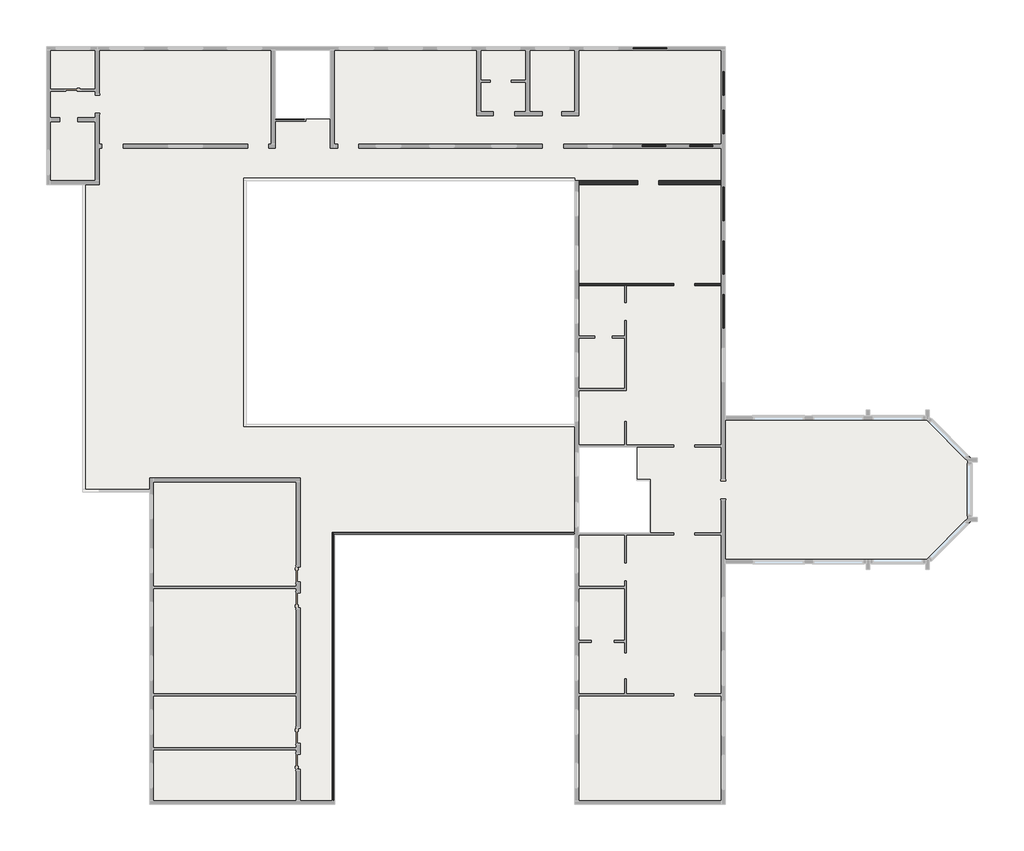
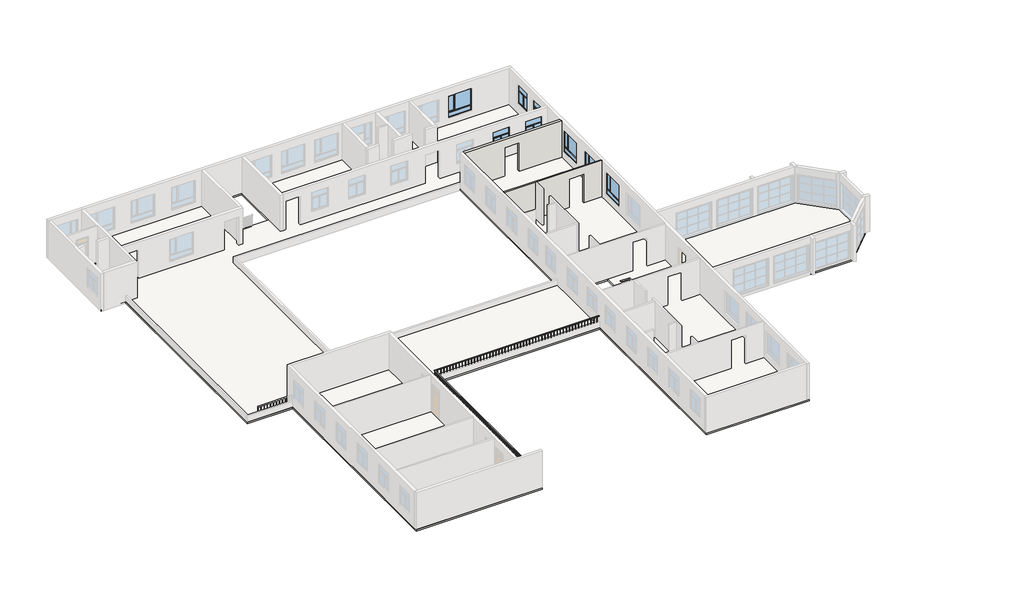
# One storey, part 3 of 4: 8 windows, 2 walls, 1 railing, 1 slab.
"""IFC4 building model written with IfcOpenShell, lengths in millimetres."""

from ifc_helpers import new_model, si_unit, frame, origin, place, context, project, spatial, polyline, outline, extrude, faceted_brep, transform, mapped, element, save
from components import c1_07d47191, c2_05897f81

model = new_model("IFC4")

# Units and contexts
model_context = context("Model", 3, world=origin())
ifc_project = project(units=[si_unit("LENGTHUNIT", "METRE", prefix="MILLI")], contexts=[model_context])

# Site, building, storey
site = spatial("IfcSite", under=ifc_project)
building = spatial("IfcBuilding", under=site)
storey = spatial("IfcBuildingStorey", under=building, Name="二层", Elevation=3600.0)

# Railing
placement = place(None, origin())
element("IfcRailing", 1, ObjectType="900mm", at=placement, inside=storey, context=model_context, shape_type="SolidModel", body=[
    faceted_brep([(-17810.2831392, -27593.7838385, 4700.0), (-17810.2831392, -27593.7838385, 4650.0), (-17760.2831392, -27593.7838385, 4650.0), (-17760.2831392, -27593.7838385, 4700.0), (-17810.2831392, -11173.7838385, 4700.0), (-17810.2831392, -11173.7838385, 4650.0), (-17760.2831392, -11223.7838385, 4650.0), (-17760.2831392, -11223.7838385, 4700.0), (-2990.2831392, -11173.7838385, 4700.0), (-2990.2831392, -11223.7838385, 4700.0), (-2990.2831392, -11223.7838385, 4650.0), (-2990.2831392, -11173.7838385, 4650.0)], [[[0, 1, 2, 3]], [[1, 0, 4, 5]], [[2, 1, 5, 6]], [[3, 2, 6, 7]], [[0, 3, 7, 4]], [[8, 9, 10, 11]], [[5, 4, 8, 11]], [[6, 5, 11, 10]], [[7, 6, 10, 9]], [[4, 7, 9, 8]]]),
    extrude(outline(polyline([(-3220.2831392, -11208.7838385), (-3220.2831392, -11188.7838385), (-3200.2831392, -11188.7838385), (-3200.2831392, -11208.7838385), (-3220.2831392, -11208.7838385)])), frame((0.0, 0.0, 4150.0), z_axis=(0.0, 0.0, 1.0), x_axis=(1.0, 0.0, 0.0)), (0.0, 0.0, 1.0), 500.0),
    extrude(outline(polyline([(-3495.2831392, -11208.7838385), (-3495.2831392, -11188.7838385), (-3475.2831392, -11188.7838385), (-3475.2831392, -11208.7838385), (-3495.2831392, -11208.7838385)])), frame((0.0, 0.0, 4150.0), z_axis=(0.0, 0.0, 1.0), x_axis=(1.0, 0.0, 0.0)), (0.0, 0.0, 1.0), 500.0),
    extrude(outline(polyline([(-3770.2831392, -11208.7838385), (-3770.2831392, -11188.7838385), (-3750.2831392, -11188.7838385), (-3750.2831392, -11208.7838385), (-3770.2831392, -11208.7838385)])), frame((0.0, 0.0, 4150.0), z_axis=(0.0, 0.0, 1.0), x_axis=(1.0, 0.0, 0.0)), (0.0, 0.0, 1.0), 500.0),
    extrude(outline(polyline([(-4045.2831392, -11208.7838385), (-4045.2831392, -11188.7838385), (-4025.2831392, -11188.7838385), (-4025.2831392, -11208.7838385), (-4045.2831392, -11208.7838385)])), frame((0.0, 0.0, 4150.0), z_axis=(0.0, 0.0, 1.0), x_axis=(1.0, 0.0, 0.0)), (0.0, 0.0, 1.0), 500.0),
    extrude(outline(polyline([(-4320.2831392, -11208.7838385), (-4320.2831392, -11188.7838385), (-4300.2831392, -11188.7838385), (-4300.2831392, -11208.7838385), (-4320.2831392, -11208.7838385)])), frame((0.0, 0.0, 4150.0), z_axis=(0.0, 0.0, 1.0), x_axis=(1.0, 0.0, 0.0)), (0.0, 0.0, 1.0), 500.0),
    extrude(outline(polyline([(-4595.2831392, -11208.7838385), (-4595.2831392, -11188.7838385), (-4575.2831392, -11188.7838385), (-4575.2831392, -11208.7838385), (-4595.2831392, -11208.7838385)])), frame((0.0, 0.0, 4150.0), z_axis=(0.0, 0.0, 1.0), x_axis=(1.0, 0.0, 0.0)), (0.0, 0.0, 1.0), 500.0),
    extrude(outline(polyline([(-4870.2831392, -11208.7838385), (-4870.2831392, -11188.7838385), (-4850.2831392, -11188.7838385), (-4850.2831392, -11208.7838385), (-4870.2831392, -11208.7838385)])), frame((0.0, 0.0, 4150.0), z_axis=(0.0, 0.0, 1.0), x_axis=(1.0, 0.0, 0.0)), (0.0, 0.0, 1.0), 500.0),
    extrude(outline(polyline([(-5145.2831392, -11208.7838385), (-5145.2831392, -11188.7838385), (-5125.2831392, -11188.7838385), (-5125.2831392, -11208.7838385), (-5145.2831392, -11208.7838385)])), frame((0.0, 0.0, 4150.0), z_axis=(0.0, 0.0, 1.0), x_axis=(1.0, 0.0, 0.0)), (0.0, 0.0, 1.0), 500.0),
    extrude(outline(polyline([(-5420.2831392, -11208.7838385), (-5420.2831392, -11188.7838385), (-5400.2831392, -11188.7838385), (-5400.2831392, -11208.7838385), (-5420.2831392, -11208.7838385)])), frame((0.0, 0.0, 4150.0), z_axis=(0.0, 0.0, 1.0), x_axis=(1.0, 0.0, 0.0)), (0.0, 0.0, 1.0), 500.0),
    extrude(outline(polyline([(-5695.2831392, -11208.7838385), (-5695.2831392, -11188.7838385), (-5675.2831392, -11188.7838385), (-5675.2831392, -11208.7838385), (-5695.2831392, -11208.7838385)])), frame((0.0, 0.0, 4150.0), z_axis=(0.0, 0.0, 1.0), x_axis=(1.0, 0.0, 0.0)), (0.0, 0.0, 1.0), 500.0),
    extrude(outline(polyline([(-5970.2831392, -11208.7838385), (-5970.2831392, -11188.7838385), (-5950.2831392, -11188.7838385), (-5950.2831392, -11208.7838385), (-5970.2831392, -11208.7838385)])), frame((0.0, 0.0, 4150.0), z_axis=(0.0, 0.0, 1.0), x_axis=(1.0, 0.0, 0.0)), (0.0, 0.0, 1.0), 500.0),
    extrude(outline(polyline([(-6245.2831392, -11208.7838385), (-6245.2831392, -11188.7838385), (-6225.2831392, -11188.7838385), (-6225.2831392, -11208.7838385), (-6245.2831392, -11208.7838385)])), frame((0.0, 0.0, 4150.0), z_axis=(0.0, 0.0, 1.0), x_axis=(1.0, 0.0, 0.0)), (0.0, 0.0, 1.0), 500.0),
    extrude(outline(polyline([(-6520.2831392, -11208.7838385), (-6520.2831392, -11188.7838385), (-6500.2831392, -11188.7838385), (-6500.2831392, -11208.7838385), (-6520.2831392, -11208.7838385)])), frame((0.0, 0.0, 4150.0), z_axis=(0.0, 0.0, 1.0), x_axis=(1.0, 0.0, 0.0)), (0.0, 0.0, 1.0), 500.0),
    extrude(outline(polyline([(-6795.2831392, -11208.7838385), (-6795.2831392, -11188.7838385), (-6775.2831392, -11188.7838385), (-6775.2831392, -11208.7838385), (-6795.2831392, -11208.7838385)])), frame((0.0, 0.0, 4150.0), z_axis=(0.0, 0.0, 1.0), x_axis=(1.0, 0.0, 0.0)), (0.0, 0.0, 1.0), 500.0),
    extrude(outline(polyline([(-7070.2831392, -11208.7838385), (-7070.2831392, -11188.7838385), (-7050.2831392, -11188.7838385), (-7050.2831392, -11208.7838385), (-7070.2831392, -11208.7838385)])), frame((0.0, 0.0, 4150.0), z_axis=(0.0, 0.0, 1.0), x_axis=(1.0, 0.0, 0.0)), (0.0, 0.0, 1.0), 500.0),
    extrude(outline(polyline([(-7345.2831392, -11208.7838385), (-7345.2831392, -11188.7838385), (-7325.2831392, -11188.7838385), (-7325.2831392, -11208.7838385), (-7345.2831392, -11208.7838385)])), frame((0.0, 0.0, 4150.0), z_axis=(0.0, 0.0, 1.0), x_axis=(1.0, 0.0, 0.0)), (0.0, 0.0, 1.0), 500.0),
    extrude(outline(polyline([(-7620.2831392, -11208.7838385), (-7620.2831392, -11188.7838385), (-7600.2831392, -11188.7838385), (-7600.2831392, -11208.7838385), (-7620.2831392, -11208.7838385)])), frame((0.0, 0.0, 4150.0), z_axis=(0.0, 0.0, 1.0), x_axis=(1.0, 0.0, 0.0)), (0.0, 0.0, 1.0), 500.0),
    extrude(outline(polyline([(-7895.2831392, -11208.7838385), (-7895.2831392, -11188.7838385), (-7875.2831392, -11188.7838385), (-7875.2831392, -11208.7838385), (-7895.2831392, -11208.7838385)])), frame((0.0, 0.0, 4150.0), z_axis=(0.0, 0.0, 1.0), x_axis=(1.0, 0.0, 0.0)), (0.0, 0.0, 1.0), 500.0),
    extrude(outline(polyline([(-8170.2831392, -11208.7838385), (-8170.2831392, -11188.7838385), (-8150.2831392, -11188.7838385), (-8150.2831392, -11208.7838385), (-8170.2831392, -11208.7838385)])), frame((0.0, 0.0, 4150.0), z_axis=(0.0, 0.0, 1.0), x_axis=(1.0, 0.0, 0.0)), (0.0, 0.0, 1.0), 500.0),
    extrude(outline(polyline([(-8445.2831392, -11208.7838385), (-8445.2831392, -11188.7838385), (-8425.2831392, -11188.7838385), (-8425.2831392, -11208.7838385), (-8445.2831392, -11208.7838385)])), frame((0.0, 0.0, 4150.0), z_axis=(0.0, 0.0, 1.0), x_axis=(1.0, 0.0, 0.0)), (0.0, 0.0, 1.0), 500.0),
    extrude(outline(polyline([(-8720.2831392, -11208.7838385), (-8720.2831392, -11188.7838385), (-8700.2831392, -11188.7838385), (-8700.2831392, -11208.7838385), (-8720.2831392, -11208.7838385)])), frame((0.0, 0.0, 4150.0), z_axis=(0.0, 0.0, 1.0), x_axis=(1.0, 0.0, 0.0)), (0.0, 0.0, 1.0), 500.0),
    extrude(outline(polyline([(-8995.2831392, -11208.7838385), (-8995.2831392, -11188.7838385), (-8975.2831392, -11188.7838385), (-8975.2831392, -11208.7838385), (-8995.2831392, -11208.7838385)])), frame((0.0, 0.0, 4150.0), z_axis=(0.0, 0.0, 1.0), x_axis=(1.0, 0.0, 0.0)), (0.0, 0.0, 1.0), 500.0),
    extrude(outline(polyline([(-9270.2831392, -11208.7838385), (-9270.2831392, -11188.7838385), (-9250.2831392, -11188.7838385), (-9250.2831392, -11208.7838385), (-9270.2831392, -11208.7838385)])), frame((0.0, 0.0, 4150.0), z_axis=(0.0, 0.0, 1.0), x_axis=(1.0, 0.0, 0.0)), (0.0, 0.0, 1.0), 500.0),
    extrude(outline(polyline([(-9545.2831392, -11208.7838385), (-9545.2831392, -11188.7838385), (-9525.2831392, -11188.7838385), (-9525.2831392, -11208.7838385), (-9545.2831392, -11208.7838385)])), frame((0.0, 0.0, 4150.0), z_axis=(0.0, 0.0, 1.0), x_axis=(1.0, 0.0, 0.0)), (0.0, 0.0, 1.0), 500.0),
    extrude(outline(polyline([(-9820.2831392, -11208.7838385), (-9820.2831392, -11188.7838385), (-9800.2831392, -11188.7838385), (-9800.2831392, -11208.7838385), (-9820.2831392, -11208.7838385)])), frame((0.0, 0.0, 4150.0), z_axis=(0.0, 0.0, 1.0), x_axis=(1.0, 0.0, 0.0)), (0.0, 0.0, 1.0), 500.0),
    extrude(outline(polyline([(-10095.2831392, -11208.7838385), (-10095.2831392, -11188.7838385), (-10075.2831392, -11188.7838385), (-10075.2831392, -11208.7838385), (-10095.2831392, -11208.7838385)])), frame((0.0, 0.0, 4150.0), z_axis=(0.0, 0.0, 1.0), x_axis=(1.0, 0.0, 0.0)), (0.0, 0.0, 1.0), 500.0),
    extrude(outline(polyline([(-10370.2831392, -11208.7838385), (-10370.2831392, -11188.7838385), (-10350.2831392, -11188.7838385), (-10350.2831392, -11208.7838385), (-10370.2831392, -11208.7838385)])), frame((0.0, 0.0, 4150.0), z_axis=(0.0, 0.0, 1.0), x_axis=(1.0, 0.0, 0.0)), (0.0, 0.0, 1.0), 500.0),
    extrude(outline(polyline([(-10645.2831392, -11208.7838385), (-10645.2831392, -11188.7838385), (-10625.2831392, -11188.7838385), (-10625.2831392, -11208.7838385), (-10645.2831392, -11208.7838385)])), frame((0.0, 0.0, 4150.0), z_axis=(0.0, 0.0, 1.0), x_axis=(1.0, 0.0, 0.0)), (0.0, 0.0, 1.0), 500.0),
    extrude(outline(polyline([(-10920.2831392, -11208.7838385), (-10920.2831392, -11188.7838385), (-10900.2831392, -11188.7838385), (-10900.2831392, -11208.7838385), (-10920.2831392, -11208.7838385)])), frame((0.0, 0.0, 4150.0), z_axis=(0.0, 0.0, 1.0), x_axis=(1.0, 0.0, 0.0)), (0.0, 0.0, 1.0), 500.0),
    extrude(outline(polyline([(-11195.2831392, -11208.7838385), (-11195.2831392, -11188.7838385), (-11175.2831392, -11188.7838385), (-11175.2831392, -11208.7838385), (-11195.2831392, -11208.7838385)])), frame((0.0, 0.0, 4150.0), z_axis=(0.0, 0.0, 1.0), x_axis=(1.0, 0.0, 0.0)), (0.0, 0.0, 1.0), 500.0),
    extrude(outline(polyline([(-11470.2831392, -11208.7838385), (-11470.2831392, -11188.7838385), (-11450.2831392, -11188.7838385), (-11450.2831392, -11208.7838385), (-11470.2831392, -11208.7838385)])), frame((0.0, 0.0, 4150.0), z_axis=(0.0, 0.0, 1.0), x_axis=(1.0, 0.0, 0.0)), (0.0, 0.0, 1.0), 500.0),
    extrude(outline(polyline([(-11745.2831392, -11208.7838385), (-11745.2831392, -11188.7838385), (-11725.2831392, -11188.7838385), (-11725.2831392, -11208.7838385), (-11745.2831392, -11208.7838385)])), frame((0.0, 0.0, 4150.0), z_axis=(0.0, 0.0, 1.0), x_axis=(1.0, 0.0, 0.0)), (0.0, 0.0, 1.0), 500.0),
    extrude(outline(polyline([(-12020.2831392, -11208.7838385), (-12020.2831392, -11188.7838385), (-12000.2831392, -11188.7838385), (-12000.2831392, -11208.7838385), (-12020.2831392, -11208.7838385)])), frame((0.0, 0.0, 4150.0), z_axis=(0.0, 0.0, 1.0), x_axis=(1.0, 0.0, 0.0)), (0.0, 0.0, 1.0), 500.0),
    extrude(outline(polyline([(-12295.2831392, -11208.7838385), (-12295.2831392, -11188.7838385), (-12275.2831392, -11188.7838385), (-12275.2831392, -11208.7838385), (-12295.2831392, -11208.7838385)])), frame((0.0, 0.0, 4150.0), z_axis=(0.0, 0.0, 1.0), x_axis=(1.0, 0.0, 0.0)), (0.0, 0.0, 1.0), 500.0),
    extrude(outline(polyline([(-12570.2831392, -11208.7838385), (-12570.2831392, -11188.7838385), (-12550.2831392, -11188.7838385), (-12550.2831392, -11208.7838385), (-12570.2831392, -11208.7838385)])), frame((0.0, 0.0, 4150.0), z_axis=(0.0, 0.0, 1.0), x_axis=(1.0, 0.0, 0.0)), (0.0, 0.0, 1.0), 500.0),
    extrude(outline(polyline([(-12845.2831392, -11208.7838385), (-12845.2831392, -11188.7838385), (-12825.2831392, -11188.7838385), (-12825.2831392, -11208.7838385), (-12845.2831392, -11208.7838385)])), frame((0.0, 0.0, 4150.0), z_axis=(0.0, 0.0, 1.0), x_axis=(1.0, 0.0, 0.0)), (0.0, 0.0, 1.0), 500.0),
    extrude(outline(polyline([(-13120.2831392, -11208.7838385), (-13120.2831392, -11188.7838385), (-13100.2831392, -11188.7838385), (-13100.2831392, -11208.7838385), (-13120.2831392, -11208.7838385)])), frame((0.0, 0.0, 4150.0), z_axis=(0.0, 0.0, 1.0), x_axis=(1.0, 0.0, 0.0)), (0.0, 0.0, 1.0), 500.0),
    extrude(outline(polyline([(-13395.2831392, -11208.7838385), (-13395.2831392, -11188.7838385), (-13375.2831392, -11188.7838385), (-13375.2831392, -11208.7838385), (-13395.2831392, -11208.7838385)])), frame((0.0, 0.0, 4150.0), z_axis=(0.0, 0.0, 1.0), x_axis=(1.0, 0.0, 0.0)), (0.0, 0.0, 1.0), 500.0),
    extrude(outline(polyline([(-13670.2831392, -11208.7838385), (-13670.2831392, -11188.7838385), (-13650.2831392, -11188.7838385), (-13650.2831392, -11208.7838385), (-13670.2831392, -11208.7838385)])), frame((0.0, 0.0, 4150.0), z_axis=(0.0, 0.0, 1.0), x_axis=(1.0, 0.0, 0.0)), (0.0, 0.0, 1.0), 500.0),
    extrude(outline(polyline([(-13945.2831392, -11208.7838385), (-13945.2831392, -11188.7838385), (-13925.2831392, -11188.7838385), (-13925.2831392, -11208.7838385), (-13945.2831392, -11208.7838385)])), frame((0.0, 0.0, 4150.0), z_axis=(0.0, 0.0, 1.0), x_axis=(1.0, 0.0, 0.0)), (0.0, 0.0, 1.0), 500.0),
    extrude(outline(polyline([(-14220.2831392, -11208.7838385), (-14220.2831392, -11188.7838385), (-14200.2831392, -11188.7838385), (-14200.2831392, -11208.7838385), (-14220.2831392, -11208.7838385)])), frame((0.0, 0.0, 4150.0), z_axis=(0.0, 0.0, 1.0), x_axis=(1.0, 0.0, 0.0)), (0.0, 0.0, 1.0), 500.0),
    extrude(outline(polyline([(-14495.2831392, -11208.7838385), (-14495.2831392, -11188.7838385), (-14475.2831392, -11188.7838385), (-14475.2831392, -11208.7838385), (-14495.2831392, -11208.7838385)])), frame((0.0, 0.0, 4150.0), z_axis=(0.0, 0.0, 1.0), x_axis=(1.0, 0.0, 0.0)), (0.0, 0.0, 1.0), 500.0),
    extrude(outline(polyline([(-14770.2831392, -11208.7838385), (-14770.2831392, -11188.7838385), (-14750.2831392, -11188.7838385), (-14750.2831392, -11208.7838385), (-14770.2831392, -11208.7838385)])), frame((0.0, 0.0, 4150.0), z_axis=(0.0, 0.0, 1.0), x_axis=(1.0, 0.0, 0.0)), (0.0, 0.0, 1.0), 500.0),
    extrude(outline(polyline([(-15045.2831392, -11208.7838385), (-15045.2831392, -11188.7838385), (-15025.2831392, -11188.7838385), (-15025.2831392, -11208.7838385), (-15045.2831392, -11208.7838385)])), frame((0.0, 0.0, 4150.0), z_axis=(0.0, 0.0, 1.0), x_axis=(1.0, 0.0, 0.0)), (0.0, 0.0, 1.0), 500.0),
    extrude(outline(polyline([(-15320.2831392, -11208.7838385), (-15320.2831392, -11188.7838385), (-15300.2831392, -11188.7838385), (-15300.2831392, -11208.7838385), (-15320.2831392, -11208.7838385)])), frame((0.0, 0.0, 4150.0), z_axis=(0.0, 0.0, 1.0), x_axis=(1.0, 0.0, 0.0)), (0.0, 0.0, 1.0), 500.0),
    extrude(outline(polyline([(-15595.2831392, -11208.7838385), (-15595.2831392, -11188.7838385), (-15575.2831392, -11188.7838385), (-15575.2831392, -11208.7838385), (-15595.2831392, -11208.7838385)])), frame((0.0, 0.0, 4150.0), z_axis=(0.0, 0.0, 1.0), x_axis=(1.0, 0.0, 0.0)), (0.0, 0.0, 1.0), 500.0),
    extrude(outline(polyline([(-15870.2831392, -11208.7838385), (-15870.2831392, -11188.7838385), (-15850.2831392, -11188.7838385), (-15850.2831392, -11208.7838385), (-15870.2831392, -11208.7838385)])), frame((0.0, 0.0, 4150.0), z_axis=(0.0, 0.0, 1.0), x_axis=(1.0, 0.0, 0.0)), (0.0, 0.0, 1.0), 500.0),
    extrude(outline(polyline([(-16145.2831392, -11208.7838385), (-16145.2831392, -11188.7838385), (-16125.2831392, -11188.7838385), (-16125.2831392, -11208.7838385), (-16145.2831392, -11208.7838385)])), frame((0.0, 0.0, 4150.0), z_axis=(0.0, 0.0, 1.0), x_axis=(1.0, 0.0, 0.0)), (0.0, 0.0, 1.0), 500.0),
    extrude(outline(polyline([(-16420.2831392, -11208.7838385), (-16420.2831392, -11188.7838385), (-16400.2831392, -11188.7838385), (-16400.2831392, -11208.7838385), (-16420.2831392, -11208.7838385)])), frame((0.0, 0.0, 4150.0), z_axis=(0.0, 0.0, 1.0), x_axis=(1.0, 0.0, 0.0)), (0.0, 0.0, 1.0), 500.0),
    extrude(outline(polyline([(-16695.2831392, -11208.7838385), (-16695.2831392, -11188.7838385), (-16675.2831392, -11188.7838385), (-16675.2831392, -11208.7838385), (-16695.2831392, -11208.7838385)])), frame((0.0, 0.0, 4150.0), z_axis=(0.0, 0.0, 1.0), x_axis=(1.0, 0.0, 0.0)), (0.0, 0.0, 1.0), 500.0),
    extrude(outline(polyline([(-16970.2831392, -11208.7838385), (-16970.2831392, -11188.7838385), (-16950.2831392, -11188.7838385), (-16950.2831392, -11208.7838385), (-16970.2831392, -11208.7838385)])), frame((0.0, 0.0, 4150.0), z_axis=(0.0, 0.0, 1.0), x_axis=(1.0, 0.0, 0.0)), (0.0, 0.0, 1.0), 500.0),
    extrude(outline(polyline([(-17245.2831392, -11208.7838385), (-17245.2831392, -11188.7838385), (-17225.2831392, -11188.7838385), (-17225.2831392, -11208.7838385), (-17245.2831392, -11208.7838385)])), frame((0.0, 0.0, 4150.0), z_axis=(0.0, 0.0, 1.0), x_axis=(1.0, 0.0, 0.0)), (0.0, 0.0, 1.0), 500.0),
    extrude(outline(polyline([(-17520.2831392, -11208.7838385), (-17520.2831392, -11188.7838385), (-17500.2831392, -11188.7838385), (-17500.2831392, -11208.7838385), (-17520.2831392, -11208.7838385)])), frame((0.0, 0.0, 4150.0), z_axis=(0.0, 0.0, 1.0), x_axis=(1.0, 0.0, 0.0)), (0.0, 0.0, 1.0), 500.0),
    extrude(outline(polyline([(-17775.2831392, -11378.7838385), (-17795.2831392, -11378.7838385), (-17795.2831392, -11358.7838385), (-17775.2831392, -11358.7838385), (-17775.2831392, -11378.7838385)])), frame((0.0, 0.0, 4150.0), z_axis=(0.0, 0.0, 1.0), x_axis=(1.0, 0.0, 0.0)), (0.0, 0.0, 1.0), 500.0),
    extrude(outline(polyline([(-17775.2831392, -11653.7838385), (-17795.2831392, -11653.7838385), (-17795.2831392, -11633.7838385), (-17775.2831392, -11633.7838385), (-17775.2831392, -11653.7838385)])), frame((0.0, 0.0, 4150.0), z_axis=(0.0, 0.0, 1.0), x_axis=(1.0, 0.0, 0.0)), (0.0, 0.0, 1.0), 500.0),
    extrude(outline(polyline([(-17775.2831392, -11928.7838385), (-17795.2831392, -11928.7838385), (-17795.2831392, -11908.7838385), (-17775.2831392, -11908.7838385), (-17775.2831392, -11928.7838385)])), frame((0.0, 0.0, 4150.0), z_axis=(0.0, 0.0, 1.0), x_axis=(1.0, 0.0, 0.0)), (0.0, 0.0, 1.0), 500.0),
    extrude(outline(polyline([(-17775.2831392, -12203.7838385), (-17795.2831392, -12203.7838385), (-17795.2831392, -12183.7838385), (-17775.2831392, -12183.7838385), (-17775.2831392, -12203.7838385)])), frame((0.0, 0.0, 4150.0), z_axis=(0.0, 0.0, 1.0), x_axis=(1.0, 0.0, 0.0)), (0.0, 0.0, 1.0), 500.0),
    extrude(outline(polyline([(-17775.2831392, -12478.7838385), (-17795.2831392, -12478.7838385), (-17795.2831392, -12458.7838385), (-17775.2831392, -12458.7838385), (-17775.2831392, -12478.7838385)])), frame((0.0, 0.0, 4150.0), z_axis=(0.0, 0.0, 1.0), x_axis=(1.0, 0.0, 0.0)), (0.0, 0.0, 1.0), 500.0),
    extrude(outline(polyline([(-17775.2831392, -12753.7838385), (-17795.2831392, -12753.7838385), (-17795.2831392, -12733.7838385), (-17775.2831392, -12733.7838385), (-17775.2831392, -12753.7838385)])), frame((0.0, 0.0, 4150.0), z_axis=(0.0, 0.0, 1.0), x_axis=(1.0, 0.0, 0.0)), (0.0, 0.0, 1.0), 500.0),
    extrude(outline(polyline([(-17775.2831392, -13028.7838385), (-17795.2831392, -13028.7838385), (-17795.2831392, -13008.7838385), (-17775.2831392, -13008.7838385), (-17775.2831392, -13028.7838385)])), frame((0.0, 0.0, 4150.0), z_axis=(0.0, 0.0, 1.0), x_axis=(1.0, 0.0, 0.0)), (0.0, 0.0, 1.0), 500.0),
    extrude(outline(polyline([(-17775.2831392, -13303.7838385), (-17795.2831392, -13303.7838385), (-17795.2831392, -13283.7838385), (-17775.2831392, -13283.7838385), (-17775.2831392, -13303.7838385)])), frame((0.0, 0.0, 4150.0), z_axis=(0.0, 0.0, 1.0), x_axis=(1.0, 0.0, 0.0)), (0.0, 0.0, 1.0), 500.0),
    extrude(outline(polyline([(-17775.2831392, -13578.7838385), (-17795.2831392, -13578.7838385), (-17795.2831392, -13558.7838385), (-17775.2831392, -13558.7838385), (-17775.2831392, -13578.7838385)])), frame((0.0, 0.0, 4150.0), z_axis=(0.0, 0.0, 1.0), x_axis=(1.0, 0.0, 0.0)), (0.0, 0.0, 1.0), 500.0),
    extrude(outline(polyline([(-17775.2831392, -13853.7838385), (-17795.2831392, -13853.7838385), (-17795.2831392, -13833.7838385), (-17775.2831392, -13833.7838385), (-17775.2831392, -13853.7838385)])), frame((0.0, 0.0, 4150.0), z_axis=(0.0, 0.0, 1.0), x_axis=(1.0, 0.0, 0.0)), (0.0, 0.0, 1.0), 500.0),
    extrude(outline(polyline([(-17775.2831392, -14128.7838385), (-17795.2831392, -14128.7838385), (-17795.2831392, -14108.7838385), (-17775.2831392, -14108.7838385), (-17775.2831392, -14128.7838385)])), frame((0.0, 0.0, 4150.0), z_axis=(0.0, 0.0, 1.0), x_axis=(1.0, 0.0, 0.0)), (0.0, 0.0, 1.0), 500.0),
    extrude(outline(polyline([(-17775.2831392, -14403.7838385), (-17795.2831392, -14403.7838385), (-17795.2831392, -14383.7838385), (-17775.2831392, -14383.7838385), (-17775.2831392, -14403.7838385)])), frame((0.0, 0.0, 4150.0), z_axis=(0.0, 0.0, 1.0), x_axis=(1.0, 0.0, 0.0)), (0.0, 0.0, 1.0), 500.0),
    extrude(outline(polyline([(-17775.2831392, -14678.7838385), (-17795.2831392, -14678.7838385), (-17795.2831392, -14658.7838385), (-17775.2831392, -14658.7838385), (-17775.2831392, -14678.7838385)])), frame((0.0, 0.0, 4150.0), z_axis=(0.0, 0.0, 1.0), x_axis=(1.0, 0.0, 0.0)), (0.0, 0.0, 1.0), 500.0),
    extrude(outline(polyline([(-17775.2831392, -14953.7838385), (-17795.2831392, -14953.7838385), (-17795.2831392, -14933.7838385), (-17775.2831392, -14933.7838385), (-17775.2831392, -14953.7838385)])), frame((0.0, 0.0, 4150.0), z_axis=(0.0, 0.0, 1.0), x_axis=(1.0, 0.0, 0.0)), (0.0, 0.0, 1.0), 500.0),
    extrude(outline(polyline([(-17775.2831392, -15228.7838385), (-17795.2831392, -15228.7838385), (-17795.2831392, -15208.7838385), (-17775.2831392, -15208.7838385), (-17775.2831392, -15228.7838385)])), frame((0.0, 0.0, 4150.0), z_axis=(0.0, 0.0, 1.0), x_axis=(1.0, 0.0, 0.0)), (0.0, 0.0, 1.0), 500.0),
    extrude(outline(polyline([(-17775.2831392, -15503.7838385), (-17795.2831392, -15503.7838385), (-17795.2831392, -15483.7838385), (-17775.2831392, -15483.7838385), (-17775.2831392, -15503.7838385)])), frame((0.0, 0.0, 4150.0), z_axis=(0.0, 0.0, 1.0), x_axis=(1.0, 0.0, 0.0)), (0.0, 0.0, 1.0), 500.0),
    extrude(outline(polyline([(-17775.2831392, -15778.7838385), (-17795.2831392, -15778.7838385), (-17795.2831392, -15758.7838385), (-17775.2831392, -15758.7838385), (-17775.2831392, -15778.7838385)])), frame((0.0, 0.0, 4150.0), z_axis=(0.0, 0.0, 1.0), x_axis=(1.0, 0.0, 0.0)), (0.0, 0.0, 1.0), 500.0),
    extrude(outline(polyline([(-17775.2831392, -16053.7838385), (-17795.2831392, -16053.7838385), (-17795.2831392, -16033.7838385), (-17775.2831392, -16033.7838385), (-17775.2831392, -16053.7838385)])), frame((0.0, 0.0, 4150.0), z_axis=(0.0, 0.0, 1.0), x_axis=(1.0, 0.0, 0.0)), (0.0, 0.0, 1.0), 500.0),
    extrude(outline(polyline([(-17775.2831392, -16328.7838385), (-17795.2831392, -16328.7838385), (-17795.2831392, -16308.7838385), (-17775.2831392, -16308.7838385), (-17775.2831392, -16328.7838385)])), frame((0.0, 0.0, 4150.0), z_axis=(0.0, 0.0, 1.0), x_axis=(1.0, 0.0, 0.0)), (0.0, 0.0, 1.0), 500.0),
    extrude(outline(polyline([(-17775.2831392, -16603.7838385), (-17795.2831392, -16603.7838385), (-17795.2831392, -16583.7838385), (-17775.2831392, -16583.7838385), (-17775.2831392, -16603.7838385)])), frame((0.0, 0.0, 4150.0), z_axis=(0.0, 0.0, 1.0), x_axis=(1.0, 0.0, 0.0)), (0.0, 0.0, 1.0), 500.0),
    extrude(outline(polyline([(-17775.2831392, -16878.7838385), (-17795.2831392, -16878.7838385), (-17795.2831392, -16858.7838385), (-17775.2831392, -16858.7838385), (-17775.2831392, -16878.7838385)])), frame((0.0, 0.0, 4150.0), z_axis=(0.0, 0.0, 1.0), x_axis=(1.0, 0.0, 0.0)), (0.0, 0.0, 1.0), 500.0),
    extrude(outline(polyline([(-17775.2831392, -17153.7838385), (-17795.2831392, -17153.7838385), (-17795.2831392, -17133.7838385), (-17775.2831392, -17133.7838385), (-17775.2831392, -17153.7838385)])), frame((0.0, 0.0, 4150.0), z_axis=(0.0, 0.0, 1.0), x_axis=(1.0, 0.0, 0.0)), (0.0, 0.0, 1.0), 500.0),
    extrude(outline(polyline([(-17775.2831392, -17428.7838385), (-17795.2831392, -17428.7838385), (-17795.2831392, -17408.7838385), (-17775.2831392, -17408.7838385), (-17775.2831392, -17428.7838385)])), frame((0.0, 0.0, 4150.0), z_axis=(0.0, 0.0, 1.0), x_axis=(1.0, 0.0, 0.0)), (0.0, 0.0, 1.0), 500.0),
    extrude(outline(polyline([(-17775.2831392, -17703.7838385), (-17795.2831392, -17703.7838385), (-17795.2831392, -17683.7838385), (-17775.2831392, -17683.7838385), (-17775.2831392, -17703.7838385)])), frame((0.0, 0.0, 4150.0), z_axis=(0.0, 0.0, 1.0), x_axis=(1.0, 0.0, 0.0)), (0.0, 0.0, 1.0), 500.0),
    extrude(outline(polyline([(-17775.2831392, -17978.7838385), (-17795.2831392, -17978.7838385), (-17795.2831392, -17958.7838385), (-17775.2831392, -17958.7838385), (-17775.2831392, -17978.7838385)])), frame((0.0, 0.0, 4150.0), z_axis=(0.0, 0.0, 1.0), x_axis=(1.0, 0.0, 0.0)), (0.0, 0.0, 1.0), 500.0),
    extrude(outline(polyline([(-17775.2831392, -18253.7838385), (-17795.2831392, -18253.7838385), (-17795.2831392, -18233.7838385), (-17775.2831392, -18233.7838385), (-17775.2831392, -18253.7838385)])), frame((0.0, 0.0, 4150.0), z_axis=(0.0, 0.0, 1.0), x_axis=(1.0, 0.0, 0.0)), (0.0, 0.0, 1.0), 500.0),
    extrude(outline(polyline([(-17775.2831392, -18528.7838385), (-17795.2831392, -18528.7838385), (-17795.2831392, -18508.7838385), (-17775.2831392, -18508.7838385), (-17775.2831392, -18528.7838385)])), frame((0.0, 0.0, 4150.0), z_axis=(0.0, 0.0, 1.0), x_axis=(1.0, 0.0, 0.0)), (0.0, 0.0, 1.0), 500.0),
    extrude(outline(polyline([(-17775.2831392, -18803.7838385), (-17795.2831392, -18803.7838385), (-17795.2831392, -18783.7838385), (-17775.2831392, -18783.7838385), (-17775.2831392, -18803.7838385)])), frame((0.0, 0.0, 4150.0), z_axis=(0.0, 0.0, 1.0), x_axis=(1.0, 0.0, 0.0)), (0.0, 0.0, 1.0), 500.0),
    extrude(outline(polyline([(-17775.2831392, -19078.7838385), (-17795.2831392, -19078.7838385), (-17795.2831392, -19058.7838385), (-17775.2831392, -19058.7838385), (-17775.2831392, -19078.7838385)])), frame((0.0, 0.0, 4150.0), z_axis=(0.0, 0.0, 1.0), x_axis=(1.0, 0.0, 0.0)), (0.0, 0.0, 1.0), 500.0),
    extrude(outline(polyline([(-17775.2831392, -19353.7838385), (-17795.2831392, -19353.7838385), (-17795.2831392, -19333.7838385), (-17775.2831392, -19333.7838385), (-17775.2831392, -19353.7838385)])), frame((0.0, 0.0, 4150.0), z_axis=(0.0, 0.0, 1.0), x_axis=(1.0, 0.0, 0.0)), (0.0, 0.0, 1.0), 500.0),
    extrude(outline(polyline([(-17775.2831392, -19628.7838385), (-17795.2831392, -19628.7838385), (-17795.2831392, -19608.7838385), (-17775.2831392, -19608.7838385), (-17775.2831392, -19628.7838385)])), frame((0.0, 0.0, 4150.0), z_axis=(0.0, 0.0, 1.0), x_axis=(1.0, 0.0, 0.0)), (0.0, 0.0, 1.0), 500.0),
    extrude(outline(polyline([(-17775.2831392, -19903.7838385), (-17795.2831392, -19903.7838385), (-17795.2831392, -19883.7838385), (-17775.2831392, -19883.7838385), (-17775.2831392, -19903.7838385)])), frame((0.0, 0.0, 4150.0), z_axis=(0.0, 0.0, 1.0), x_axis=(1.0, 0.0, 0.0)), (0.0, 0.0, 1.0), 500.0),
    extrude(outline(polyline([(-17775.2831392, -20178.7838385), (-17795.2831392, -20178.7838385), (-17795.2831392, -20158.7838385), (-17775.2831392, -20158.7838385), (-17775.2831392, -20178.7838385)])), frame((0.0, 0.0, 4150.0), z_axis=(0.0, 0.0, 1.0), x_axis=(1.0, 0.0, 0.0)), (0.0, 0.0, 1.0), 500.0),
    extrude(outline(polyline([(-17775.2831392, -20453.7838385), (-17795.2831392, -20453.7838385), (-17795.2831392, -20433.7838385), (-17775.2831392, -20433.7838385), (-17775.2831392, -20453.7838385)])), frame((0.0, 0.0, 4150.0), z_axis=(0.0, 0.0, 1.0), x_axis=(1.0, 0.0, 0.0)), (0.0, 0.0, 1.0), 500.0),
    extrude(outline(polyline([(-17775.2831392, -20728.7838385), (-17795.2831392, -20728.7838385), (-17795.2831392, -20708.7838385), (-17775.2831392, -20708.7838385), (-17775.2831392, -20728.7838385)])), frame((0.0, 0.0, 4150.0), z_axis=(0.0, 0.0, 1.0), x_axis=(1.0, 0.0, 0.0)), (0.0, 0.0, 1.0), 500.0),
    extrude(outline(polyline([(-17775.2831392, -21003.7838385), (-17795.2831392, -21003.7838385), (-17795.2831392, -20983.7838385), (-17775.2831392, -20983.7838385), (-17775.2831392, -21003.7838385)])), frame((0.0, 0.0, 4150.0), z_axis=(0.0, 0.0, 1.0), x_axis=(1.0, 0.0, 0.0)), (0.0, 0.0, 1.0), 500.0),
    extrude(outline(polyline([(-17775.2831392, -21278.7838385), (-17795.2831392, -21278.7838385), (-17795.2831392, -21258.7838385), (-17775.2831392, -21258.7838385), (-17775.2831392, -21278.7838385)])), frame((0.0, 0.0, 4150.0), z_axis=(0.0, 0.0, 1.0), x_axis=(1.0, 0.0, 0.0)), (0.0, 0.0, 1.0), 500.0),
    extrude(outline(polyline([(-17775.2831392, -21553.7838385), (-17795.2831392, -21553.7838385), (-17795.2831392, -21533.7838385), (-17775.2831392, -21533.7838385), (-17775.2831392, -21553.7838385)])), frame((0.0, 0.0, 4150.0), z_axis=(0.0, 0.0, 1.0), x_axis=(1.0, 0.0, 0.0)), (0.0, 0.0, 1.0), 500.0),
    extrude(outline(polyline([(-17775.2831392, -21828.7838385), (-17795.2831392, -21828.7838385), (-17795.2831392, -21808.7838385), (-17775.2831392, -21808.7838385), (-17775.2831392, -21828.7838385)])), frame((0.0, 0.0, 4150.0), z_axis=(0.0, 0.0, 1.0), x_axis=(1.0, 0.0, 0.0)), (0.0, 0.0, 1.0), 500.0),
    extrude(outline(polyline([(-17775.2831392, -22103.7838385), (-17795.2831392, -22103.7838385), (-17795.2831392, -22083.7838385), (-17775.2831392, -22083.7838385), (-17775.2831392, -22103.7838385)])), frame((0.0, 0.0, 4150.0), z_axis=(0.0, 0.0, 1.0), x_axis=(1.0, 0.0, 0.0)), (0.0, 0.0, 1.0), 500.0),
    extrude(outline(polyline([(-17775.2831392, -22378.7838385), (-17795.2831392, -22378.7838385), (-17795.2831392, -22358.7838385), (-17775.2831392, -22358.7838385), (-17775.2831392, -22378.7838385)])), frame((0.0, 0.0, 4150.0), z_axis=(0.0, 0.0, 1.0), x_axis=(1.0, 0.0, 0.0)), (0.0, 0.0, 1.0), 500.0),
    extrude(outline(polyline([(-17775.2831392, -22653.7838385), (-17795.2831392, -22653.7838385), (-17795.2831392, -22633.7838385), (-17775.2831392, -22633.7838385), (-17775.2831392, -22653.7838385)])), frame((0.0, 0.0, 4150.0), z_axis=(0.0, 0.0, 1.0), x_axis=(1.0, 0.0, 0.0)), (0.0, 0.0, 1.0), 500.0),
    extrude(outline(polyline([(-17775.2831392, -22928.7838385), (-17795.2831392, -22928.7838385), (-17795.2831392, -22908.7838385), (-17775.2831392, -22908.7838385), (-17775.2831392, -22928.7838385)])), frame((0.0, 0.0, 4150.0), z_axis=(0.0, 0.0, 1.0), x_axis=(1.0, 0.0, 0.0)), (0.0, 0.0, 1.0), 500.0),
    extrude(outline(polyline([(-17775.2831392, -23203.7838385), (-17795.2831392, -23203.7838385), (-17795.2831392, -23183.7838385), (-17775.2831392, -23183.7838385), (-17775.2831392, -23203.7838385)])), frame((0.0, 0.0, 4150.0), z_axis=(0.0, 0.0, 1.0), x_axis=(1.0, 0.0, 0.0)), (0.0, 0.0, 1.0), 500.0),
    extrude(outline(polyline([(-17775.2831392, -23478.7838385), (-17795.2831392, -23478.7838385), (-17795.2831392, -23458.7838385), (-17775.2831392, -23458.7838385), (-17775.2831392, -23478.7838385)])), frame((0.0, 0.0, 4150.0), z_axis=(0.0, 0.0, 1.0), x_axis=(1.0, 0.0, 0.0)), (0.0, 0.0, 1.0), 500.0),
    extrude(outline(polyline([(-17775.2831392, -23753.7838385), (-17795.2831392, -23753.7838385), (-17795.2831392, -23733.7838385), (-17775.2831392, -23733.7838385), (-17775.2831392, -23753.7838385)])), frame((0.0, 0.0, 4150.0), z_axis=(0.0, 0.0, 1.0), x_axis=(1.0, 0.0, 0.0)), (0.0, 0.0, 1.0), 500.0),
    extrude(outline(polyline([(-17775.2831392, -24028.7838385), (-17795.2831392, -24028.7838385), (-17795.2831392, -24008.7838385), (-17775.2831392, -24008.7838385), (-17775.2831392, -24028.7838385)])), frame((0.0, 0.0, 4150.0), z_axis=(0.0, 0.0, 1.0), x_axis=(1.0, 0.0, 0.0)), (0.0, 0.0, 1.0), 500.0),
    extrude(outline(polyline([(-17775.2831392, -24303.7838385), (-17795.2831392, -24303.7838385), (-17795.2831392, -24283.7838385), (-17775.2831392, -24283.7838385), (-17775.2831392, -24303.7838385)])), frame((0.0, 0.0, 4150.0), z_axis=(0.0, 0.0, 1.0), x_axis=(1.0, 0.0, 0.0)), (0.0, 0.0, 1.0), 500.0),
    extrude(outline(polyline([(-17775.2831392, -24578.7838385), (-17795.2831392, -24578.7838385), (-17795.2831392, -24558.7838385), (-17775.2831392, -24558.7838385), (-17775.2831392, -24578.7838385)])), frame((0.0, 0.0, 4150.0), z_axis=(0.0, 0.0, 1.0), x_axis=(1.0, 0.0, 0.0)), (0.0, 0.0, 1.0), 500.0),
    extrude(outline(polyline([(-17775.2831392, -24853.7838385), (-17795.2831392, -24853.7838385), (-17795.2831392, -24833.7838385), (-17775.2831392, -24833.7838385), (-17775.2831392, -24853.7838385)])), frame((0.0, 0.0, 4150.0), z_axis=(0.0, 0.0, 1.0), x_axis=(1.0, 0.0, 0.0)), (0.0, 0.0, 1.0), 500.0),
    extrude(outline(polyline([(-17775.2831392, -25128.7838385), (-17795.2831392, -25128.7838385), (-17795.2831392, -25108.7838385), (-17775.2831392, -25108.7838385), (-17775.2831392, -25128.7838385)])), frame((0.0, 0.0, 4150.0), z_axis=(0.0, 0.0, 1.0), x_axis=(1.0, 0.0, 0.0)), (0.0, 0.0, 1.0), 500.0),
    extrude(outline(polyline([(-17775.2831392, -25403.7838385), (-17795.2831392, -25403.7838385), (-17795.2831392, -25383.7838385), (-17775.2831392, -25383.7838385), (-17775.2831392, -25403.7838385)])), frame((0.0, 0.0, 4150.0), z_axis=(0.0, 0.0, 1.0), x_axis=(1.0, 0.0, 0.0)), (0.0, 0.0, 1.0), 500.0),
    extrude(outline(polyline([(-17775.2831392, -25678.7838385), (-17795.2831392, -25678.7838385), (-17795.2831392, -25658.7838385), (-17775.2831392, -25658.7838385), (-17775.2831392, -25678.7838385)])), frame((0.0, 0.0, 4150.0), z_axis=(0.0, 0.0, 1.0), x_axis=(1.0, 0.0, 0.0)), (0.0, 0.0, 1.0), 500.0),
    extrude(outline(polyline([(-17775.2831392, -25953.7838385), (-17795.2831392, -25953.7838385), (-17795.2831392, -25933.7838385), (-17775.2831392, -25933.7838385), (-17775.2831392, -25953.7838385)])), frame((0.0, 0.0, 4150.0), z_axis=(0.0, 0.0, 1.0), x_axis=(1.0, 0.0, 0.0)), (0.0, 0.0, 1.0), 500.0),
    extrude(outline(polyline([(-17775.2831392, -26228.7838385), (-17795.2831392, -26228.7838385), (-17795.2831392, -26208.7838385), (-17775.2831392, -26208.7838385), (-17775.2831392, -26228.7838385)])), frame((0.0, 0.0, 4150.0), z_axis=(0.0, 0.0, 1.0), x_axis=(1.0, 0.0, 0.0)), (0.0, 0.0, 1.0), 500.0),
    extrude(outline(polyline([(-17775.2831392, -26503.7838385), (-17795.2831392, -26503.7838385), (-17795.2831392, -26483.7838385), (-17775.2831392, -26483.7838385), (-17775.2831392, -26503.7838385)])), frame((0.0, 0.0, 4150.0), z_axis=(0.0, 0.0, 1.0), x_axis=(1.0, 0.0, 0.0)), (0.0, 0.0, 1.0), 500.0),
    extrude(outline(polyline([(-17775.2831392, -26778.7838385), (-17795.2831392, -26778.7838385), (-17795.2831392, -26758.7838385), (-17775.2831392, -26758.7838385), (-17775.2831392, -26778.7838385)])), frame((0.0, 0.0, 4150.0), z_axis=(0.0, 0.0, 1.0), x_axis=(1.0, 0.0, 0.0)), (0.0, 0.0, 1.0), 500.0),
    extrude(outline(polyline([(-17775.2831392, -27053.7838385), (-17795.2831392, -27053.7838385), (-17795.2831392, -27033.7838385), (-17775.2831392, -27033.7838385), (-17775.2831392, -27053.7838385)])), frame((0.0, 0.0, 4150.0), z_axis=(0.0, 0.0, 1.0), x_axis=(1.0, 0.0, 0.0)), (0.0, 0.0, 1.0), 500.0),
    extrude(outline(polyline([(-17775.2831392, -27328.7838385), (-17795.2831392, -27328.7838385), (-17795.2831392, -27308.7838385), (-17775.2831392, -27308.7838385), (-17775.2831392, -27328.7838385)])), frame((0.0, 0.0, 4150.0), z_axis=(0.0, 0.0, 1.0), x_axis=(1.0, 0.0, 0.0)), (0.0, 0.0, 1.0), 500.0),
    extrude(outline(polyline([(-17775.2831392, -11208.7838385), (-17795.2831392, -11208.7838385), (-17795.2831392, -11188.7838385), (-17775.2831392, -11188.7838385), (-17775.2831392, -11208.7838385)])), frame((0.0, 0.0, 4150.0), z_axis=(0.0, 0.0, 1.0), x_axis=(1.0, 0.0, 0.0)), (0.0, 0.0, 1.0), 500.0),
])

# Slab
element("IfcSlab", 2, ObjectType="楼板", at=placement, inside=storey, context=model_context, shape_type="Brep", body=[
    faceted_brep([(-35385.2831392, 10231.2161615, 3450.0), (-35385.2831392, 18456.2161615, 3450.0), (-35385.2831392, 18691.2161615, 3450.0), (6244.7168608, 18691.2161615, 3450.0), (6244.7168608, -3988.7838385, 3450.0), (6249.7168608, -3988.7838385, 3450.0), (18541.7168608, -3988.7838385, 3450.0), (18709.3514205, -3988.7838385, 3450.0), (21359.7168608, -6639.1492788, 3450.0), (21359.7168608, -10388.4183981, 3450.0), (18709.3514205, -13038.7838385, 3450.0), (6244.7168608, -13038.7838385, 3450.0), (6244.7168608, -27828.7838385, 3450.0), (-2985.2831392, -27828.7838385, 3450.0), (-2985.2831392, -11273.7838385, 3450.0), (-2990.2831392, -11273.7838385, 3450.0), (-17710.2831392, -11273.7838385, 3450.0), (-17710.2831392, -11333.7838385, 3450.0), (-17710.2831392, -27828.7838385, 3450.0), (-29065.2831392, -27828.7838385, 3450.0), (-29065.2831392, -8643.7838385, 3450.0), (-33170.2831392, -8643.7838385, 3450.0), (-33170.2831392, 10226.2161615, 3450.0), (-33170.2831392, 10231.2161615, 3450.0), (-35150.2831392, 10231.2161615, 3450.0), (-2990.2831392, 10466.2161615, 3450.0), (-23140.2831392, 10466.2161615, 3450.0), (-23140.2831392, -4493.7838385, 3450.0), (-2990.2831392, -4493.7838385, 3450.0), (1589.7168608, -11153.7838385, 3450.0), (1589.7168608, -11093.7838385, 3450.0), (1589.7168608, -7933.7838385, 3450.0), (809.7168608, -7933.7838385, 3450.0), (809.7168608, -5873.7838385, 3450.0), (-2750.2831392, -5873.7838385, 3450.0), (-2750.2831392, -11153.7838385, 3450.0), (-17990.2831392, 18456.2161615, 3450.0), (-21350.2831392, 18456.2161615, 3450.0), (-21350.2831392, 14256.2161615, 3450.0), (-17990.2831392, 14256.2161615, 3450.0), (-35385.2831392, 10231.2161615, 3600.0), (-35150.2831392, 10231.2161615, 3600.0), (-33170.2831392, 10231.2161615, 3600.0), (-33170.2831392, 10226.2161615, 3600.0), (-33170.2831392, -8493.7838385, 3600.0), (-33170.2831392, -8643.7838385, 3600.0), (-29070.2831392, -8643.7838385, 3600.0), (-29065.2831392, -8643.7838385, 3600.0), (-29065.2831392, -27828.7838385, 3600.0), (-17710.2831392, -27828.7838385, 3600.0), (-17710.2831392, -27593.7838385, 3600.0), (-17710.2831392, -11333.7838385, 3600.0), (-17710.2831392, -11273.7838385, 3600.0), (-2990.2831392, -11273.7838385, 3600.0), (-2985.2831392, -11273.7838385, 3600.0), (-2985.2831392, -27828.7838385, 3600.0), (6244.7168608, -27828.7838385, 3600.0), (6244.7168608, -13038.7838385, 3600.0), (18709.3514205, -13038.7838385, 3600.0), (21359.7168608, -10388.4183981, 3600.0), (21359.7168608, -6639.1492788, 3600.0), (18709.3514205, -3988.7838385, 3600.0), (18541.7168608, -3988.7838385, 3600.0), (6249.7168608, -3988.7838385, 3600.0), (6244.7168608, -3988.7838385, 3600.0), (6244.7168608, 18691.2161615, 3600.0), (-35385.2831392, 18691.2161615, 3600.0), (-35385.2831392, 18456.2161615, 3600.0), (-2990.2831392, 10466.2161615, 3600.0), (-2990.2831392, -4493.7838385, 3600.0), (-23140.2831392, -4493.7838385, 3600.0), (-23140.2831392, 10466.2161615, 3600.0), (1589.7168608, -11153.7838385, 3600.0), (-2750.2831392, -11153.7838385, 3600.0), (-2750.2831392, -11093.7838385, 3600.0), (-2750.2831392, -5873.7838385, 3600.0), (809.7168608, -5873.7838385, 3600.0), (809.7168608, -7933.7838385, 3600.0), (1589.7168608, -7933.7838385, 3600.0), (1589.7168608, -11093.7838385, 3600.0), (-17990.2831392, 18456.2161615, 3600.0), (-17990.2831392, 14256.2161615, 3600.0), (-21350.2831392, 14256.2161615, 3600.0), (-21350.2831392, 18456.2161615, 3600.0)], [[[0, 1, 2, 3, 4, 5, 6, 7, 8, 9, 10, 11, 12, 13, 14, 15, 16, 17, 18, 19, 20, 21, 22, 23, 24], [25, 26, 27, 28], [29, 30, 31, 32, 33, 34, 35], [36, 37, 38, 39]], [[40, 41, 42, 43, 44, 45, 46, 47, 48, 49, 50, 51, 52, 53, 54, 55, 56, 57, 58, 59, 60, 61, 62, 63, 64, 65, 66, 67], [68, 69, 70, 71], [72, 73, 74, 75, 76, 77, 78, 79], [80, 81, 82, 83]], [[2, 1, 0, 40, 67, 66]], [[3, 2, 66, 65]], [[4, 3, 65, 64]], [[7, 6, 5, 4, 64, 63, 62, 61]], [[8, 7, 61, 60]], [[9, 8, 60, 59]], [[10, 9, 59, 58]], [[11, 10, 58, 57]], [[12, 11, 57, 56]], [[13, 12, 56, 55]], [[14, 13, 55, 54]], [[16, 15, 14, 54, 53, 52]], [[18, 17, 16, 52, 51, 50, 49]], [[19, 18, 49, 48]], [[20, 19, 48, 47]], [[21, 20, 47, 46, 45]], [[23, 22, 21, 45, 44, 43, 42]], [[0, 24, 23, 42, 41, 40]], [[26, 25, 68, 71]], [[27, 26, 71, 70]], [[28, 27, 70, 69]], [[25, 28, 69, 68]], [[31, 30, 29, 72, 79, 78]], [[34, 33, 76, 75]], [[35, 34, 75, 74, 73]], [[29, 35, 73, 72]], [[32, 31, 78, 77]], [[33, 32, 77, 76]], [[37, 36, 80, 83]], [[38, 37, 83, 82]], [[39, 38, 82, 81]], [[36, 39, 81, 80]]]),
])

# Walls
element("IfcWall", 3, ObjectType="隔墙", at=placement, inside=storey, context=model_context, shape_type="Brep", body=[
    faceted_brep([(4379.7168608, 4026.2161615, 3600.0), (6009.7168608, 4026.2161615, 3600.0), (6009.7168608, 4026.2161615, 7050.0), (-2750.2831392, 4026.2161615, 7050.0), (-2750.2831392, 4026.2161615, 3600.0), (69.7168608, 4026.2161615, 3600.0), (189.7168608, 4026.2161615, 3600.0), (3079.7168608, 4026.2161615, 3600.0), (3079.7168608, 4026.2161615, 6300.0), (4379.7168608, 4026.2161615, 6300.0), (6009.7168608, 4146.2161615, 3600.0), (4379.7168608, 4146.2161615, 3600.0), (4379.7168608, 4146.2161615, 6300.0), (3079.7168608, 4146.2161615, 6300.0), (3079.7168608, 4146.2161615, 3600.0), (-2750.2831392, 4146.2161615, 3600.0), (-2750.2831392, 4146.2161615, 7050.0), (6009.7168608, 4146.2161615, 7050.0)], [[[0, 1, 2, 3, 4, 5, 6, 7, 8, 9]], [[10, 11, 12, 13, 14, 15, 16, 17]], [[4, 15, 14, 7, 6, 5]], [[10, 1, 0, 11]], [[1, 10, 17, 2]], [[15, 4, 3, 16]], [[9, 12, 11, 0]], [[12, 9, 8, 13]], [[13, 8, 7, 14]], [[3, 2, 17, 16]]]),
])
element("IfcWall", 4, ObjectType="墙", at=placement, inside=storey, context=model_context, shape_type="SweptSolid", body=[
    extrude(outline(polyline([(3600.0, -2750.2831392), (3600.0, 879.7168608), (6300.0, 879.7168608), (6300.0, 2179.7168608), (3600.0, 2179.7168608), (3600.0, 6009.7168608), (7050.0, 6009.7168608), (7050.0, -2750.2831392), (3600.0, -2750.2831392)])), frame((0.0, 10226.2161615, 0.0), z_axis=(0.0, 1.0, 0.0), x_axis=(0.0, 0.0, 1.0)), (0.0, 0.0, 1.0), 240.0),
])

# Windows
c1_shape = c1_07d47191(model_context)
element("IfcWindow", 5, ObjectType="组合窗 - 双层单列(固定+推拉) : C1", at=placement, inside=storey, context=model_context, shape_type="MappedRepresentation", body=[
    mapped(c1_shape, transform((6129.7168608, 16426.2161615, 3600.0), x_axis=(0.0, -1.0, 0.0), y_axis=(1.0, 0.0, 0.0), z_axis=(0.0, 0.0, 1.0))),
])
element("IfcWindow", 6, ObjectType="组合窗 - 双层单列(固定+推拉) : C1", at=placement, inside=storey, context=model_context, shape_type="MappedRepresentation", body=[
    mapped(c1_shape, transform((6129.7168608, 14076.2161615, 3600.0), x_axis=(0.0, -1.0, 0.0), y_axis=(1.0, 0.0, 0.0), z_axis=(0.0, 0.0, 1.0))),
])
element("IfcWindow", 7, ObjectType="组合窗 - 双层单列(固定+推拉) : C1", at=placement, inside=storey, context=model_context, shape_type="MappedRepresentation", body=[
    mapped(c1_shape, transform((4779.7168608, 12576.2161615, 3600.0), x_axis=(1.0, 0.0, 0.0), y_axis=(0.0, 1.0, 0.0), z_axis=(0.0, 0.0, 1.0))),
])
element("IfcWindow", 8, ObjectType="组合窗 - 双层单列(固定+推拉) : C1", at=placement, inside=storey, context=model_context, shape_type="MappedRepresentation", body=[
    mapped(c1_shape, transform((1879.7168608, 12576.2161615, 3600.0), x_axis=(1.0, 0.0, 0.0), y_axis=(0.0, 1.0, 0.0), z_axis=(0.0, 0.0, 1.0))),
])
c2_shape = c2_05897f81(model_context)
element("IfcWindow", 9, ObjectType="组合窗 - 双层双列(平开+固定) - 下部单扇 : C2", at=placement, inside=storey, context=model_context, shape_type="MappedRepresentation", body=[
    mapped(c2_shape, transform((1629.7168608, 18576.2161615, 3600.0), x_axis=(1.0, 0.0, 0.0), y_axis=(0.0, 1.0, 0.0), z_axis=(0.0, 0.0, 1.0))),
])
element("IfcWindow", 10, ObjectType="组合窗 - 双层双列(平开+固定) - 下部单扇 : C2", at=placement, inside=storey, context=model_context, shape_type="MappedRepresentation", body=[
    mapped(c2_shape, transform((6129.7168608, 9036.2161615, 3600.0), x_axis=(0.0, -1.0, 0.0), y_axis=(1.0, 0.0, 0.0), z_axis=(0.0, 0.0, 1.0))),
])
element("IfcWindow", 11, ObjectType="组合窗 - 双层双列(平开+固定) - 下部单扇 : C2", at=placement, inside=storey, context=model_context, shape_type="MappedRepresentation", body=[
    mapped(c2_shape, transform((6129.7168608, 5736.2161615, 3600.0), x_axis=(0.0, -1.0, 0.0), y_axis=(1.0, 0.0, 0.0), z_axis=(0.0, 0.0, 1.0))),
])
element("IfcWindow", 12, ObjectType="组合窗 - 双层双列(平开+固定) - 下部单扇 : C2", at=placement, inside=storey, context=model_context, shape_type="MappedRepresentation", body=[
    mapped(c2_shape, transform((6129.7168608, 2436.2161615, 3600.0), x_axis=(0.0, -1.0, 0.0), y_axis=(1.0, 0.0, 0.0), z_axis=(0.0, 0.0, 1.0))),
])

save(model, "model.ifc")
